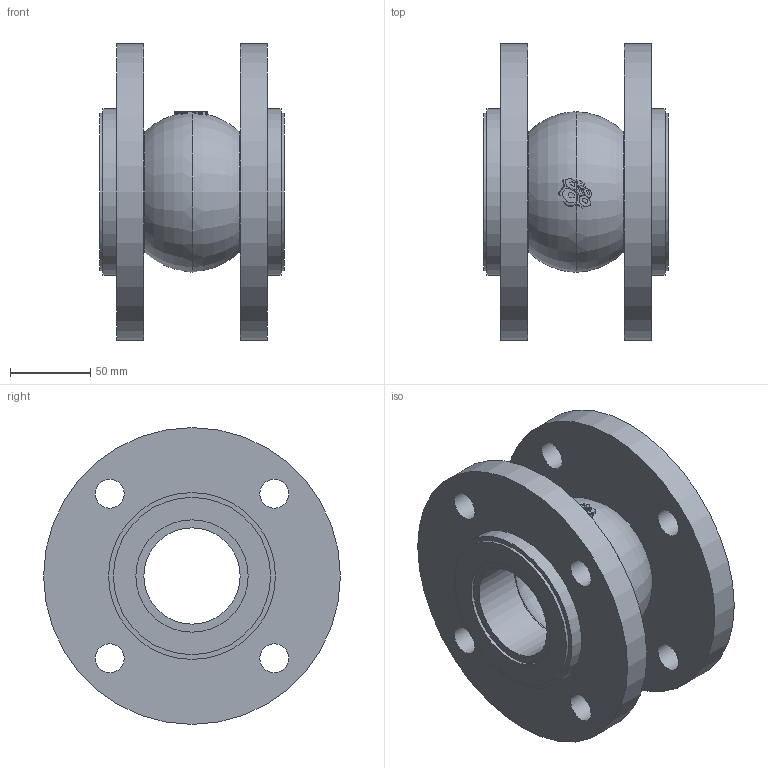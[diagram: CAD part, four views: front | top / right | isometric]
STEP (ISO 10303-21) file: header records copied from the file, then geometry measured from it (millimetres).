
FILE_DESCRIPTION(('STEP AP203'), '1');
FILE_NAME('3D_500_501-065-EPDM-FF', '', ('UNSPECIFIED'), ('UNSPECIFIED'), 'C3D Converter', 'C3D Toolkit', '');
FILE_SCHEMA(('CONFIG_CONTROL_DESIGN'));
Length unit declared in the file: millimetre
Bounding box: 115 x 185 x 185 mm (x, y, z)
Volume: 1052509.9 mm3; surface area: 168775.4 mm2
Topology: 9 solids, 9 shells, 865 faces, 2537 edges, 1698 vertices
Faces by surface type: plane 839, cylinder 18, torus 8
Full cylindrical faces by diameter (mm): 18 x8, 60 x2, 70 x2, 98 x2, 104 x2, 185 x2
Entity records: 35136 total; most frequent: CARTESIAN_POINT 5075, ORIENTED_EDGE 5022, DIRECTION 4315, EDGE_CURVE 2511, LINE 2439, VECTOR 2439, VERTEX_POINT 1698, AXIS2_PLACEMENT_3D 938
